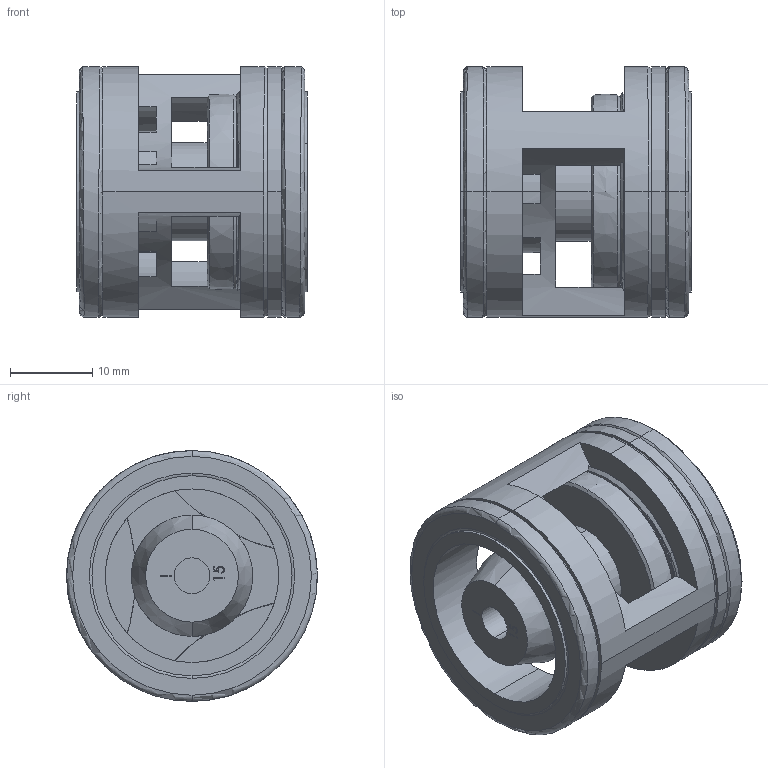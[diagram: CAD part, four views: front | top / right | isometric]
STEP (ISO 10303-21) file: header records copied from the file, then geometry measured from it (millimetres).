
FILE_DESCRIPTION (( 'STEP AP214' ), '1' );
FILE_NAME ('IGS-A-16-N015 ~.STEP', '2025-03-05T16:03:24', ( '' ), ( '' ), 'SwSTEP 2.0', 'SolidWorks 2023', '' );
FILE_SCHEMA (( 'AUTOMOTIVE_DESIGN' ));
Length unit declared in the file: inch
Products named in the file (1): IGS-A-16-N015 ~
Bounding box: 27.98 x 30.45 x 30.45 mm (x, y, z)
Volume: 10631.4 mm3; surface area: 7690 mm2
Topology: 1 solids, 2 shells, 149 faces, 422 edges, 274 vertices
Faces by surface type: cylinder 51, plane 48, bspline 17, torus 16, cone 15, sphere 2
Entity records: 7841 total; most frequent: CARTESIAN_POINT 4112, ORIENTED_EDGE 834, DIRECTION 740, EDGE_CURVE 417, AXIS2_PLACEMENT_3D 298, VERTEX_POINT 271, EDGE_LOOP 166, CIRCLE 165
